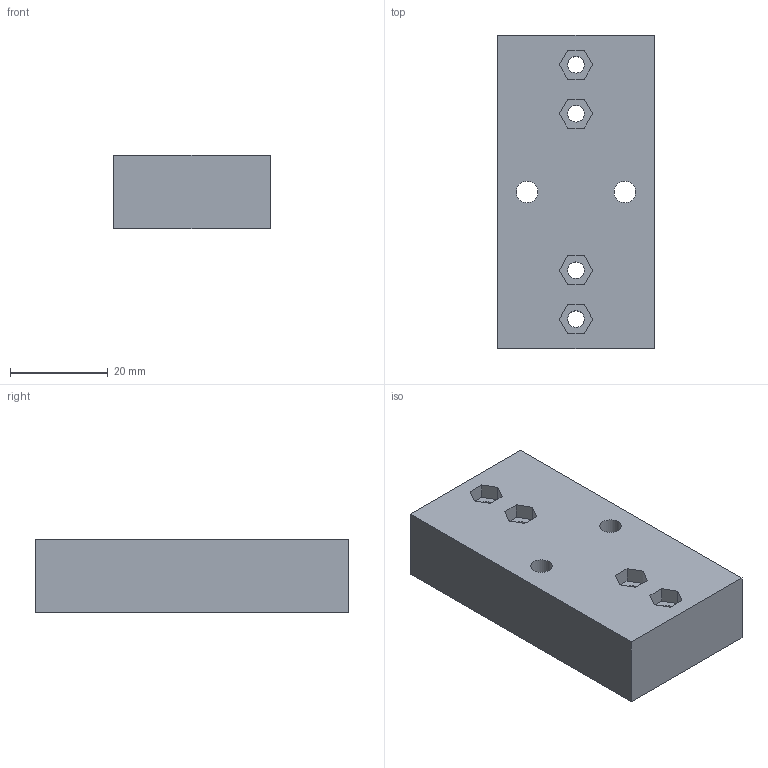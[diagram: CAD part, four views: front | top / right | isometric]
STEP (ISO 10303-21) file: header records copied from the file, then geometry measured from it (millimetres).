
FILE_DESCRIPTION(('Open CASCADE Model'),'2;1');
FILE_NAME('Open CASCADE Shape Model','2026-10-21T12:05:00',('Author'),( 'Open CASCADE'),'Open CASCADE STEP processor 7.9','Open CASCADE 7.9' ,'Unknown');
FILE_SCHEMA(('AUTOMOTIVE_DESIGN { 1 0 10303 214 1 1 1 1 }'));
Length unit declared in the file: millimetre
Products named in the file (1): Open CASCADE STEP translator 7.9 2
Bounding box: 32 x 64 x 15 mm (x, y, z)
Volume: 29459.3 mm3; surface area: 8018.6 mm2
Topology: 1 solids, 1 shells, 40 faces, 102 edges, 68 vertices
Faces by surface type: plane 34, cylinder 6
Full cylindrical faces by diameter (mm): 3.4 x4, 4.4 x2
Entity records: 2594 total; most frequent: CARTESIAN_POINT 487, DIRECTION 388, LINE 282, VECTOR 282, ORIENTED_EDGE 204, PCURVE 204, DEFINITIONAL_REPRESENTATION 204, EDGE_CURVE 102
